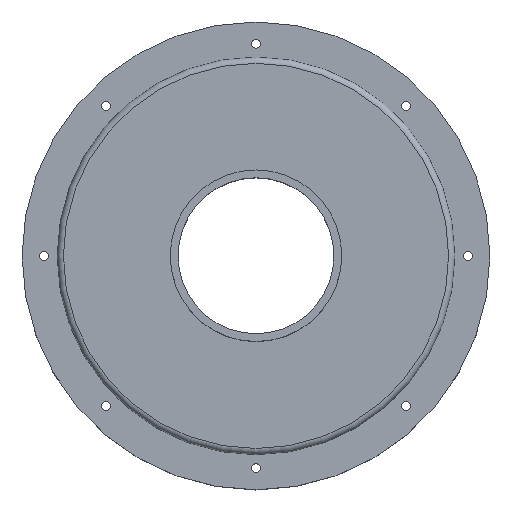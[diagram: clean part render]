
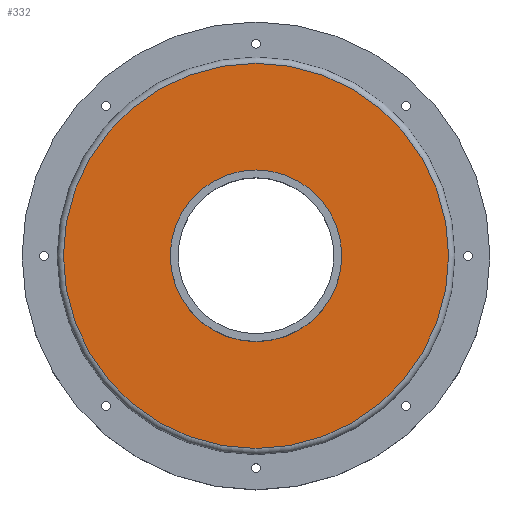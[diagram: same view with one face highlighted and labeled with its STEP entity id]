
A CAD part, top view. The second image highlights one B-rep face of the part: STEP entity #332.
In plain terms, the highlighted planar face has unit normal (0, 0, 1).
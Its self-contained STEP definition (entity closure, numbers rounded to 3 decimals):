
#17=FACE_BOUND('',#104,.T.);
#38=PLANE('',#380);
#84=FACE_OUTER_BOUND('',#103,.T.);
#103=EDGE_LOOP('',(#252));
#104=EDGE_LOOP('',(#253));
#141=CIRCLE('',#374,123.5);
#146=CIRCLE('',#381,55.);
#171=VERTEX_POINT('',#537);
#175=VERTEX_POINT('',#549);
#200=EDGE_CURVE('',#171,#171,#141,.T.);
#206=EDGE_CURVE('',#175,#175,#146,.T.);
#252=ORIENTED_EDGE('',*,*,#200,.F.);
#253=ORIENTED_EDGE('',*,*,#206,.F.);
#332=ADVANCED_FACE('',(#84,#17),#38,.T.);
#374=AXIS2_PLACEMENT_3D('',#538,#426,#427);
#380=AXIS2_PLACEMENT_3D('',#548,#439,#440);
#381=AXIS2_PLACEMENT_3D('',#550,#441,#442);
#426=DIRECTION('center_axis',(0.,0.,-1.));
#427=DIRECTION('ref_axis',(-1.,0.,0.));
#439=DIRECTION('center_axis',(0.,0.,1.));
#440=DIRECTION('ref_axis',(1.,0.,0.));
#441=DIRECTION('center_axis',(0.,0.,1.));
#442=DIRECTION('ref_axis',(1.,0.,0.));
#537=CARTESIAN_POINT('',(-123.5,0.,60.));
#538=CARTESIAN_POINT('Origin',(0.,0.,60.));
#548=CARTESIAN_POINT('Origin',(0.,0.,60.));
#549=CARTESIAN_POINT('',(-55.,0.,60.));
#550=CARTESIAN_POINT('Origin',(0.,0.,60.));
